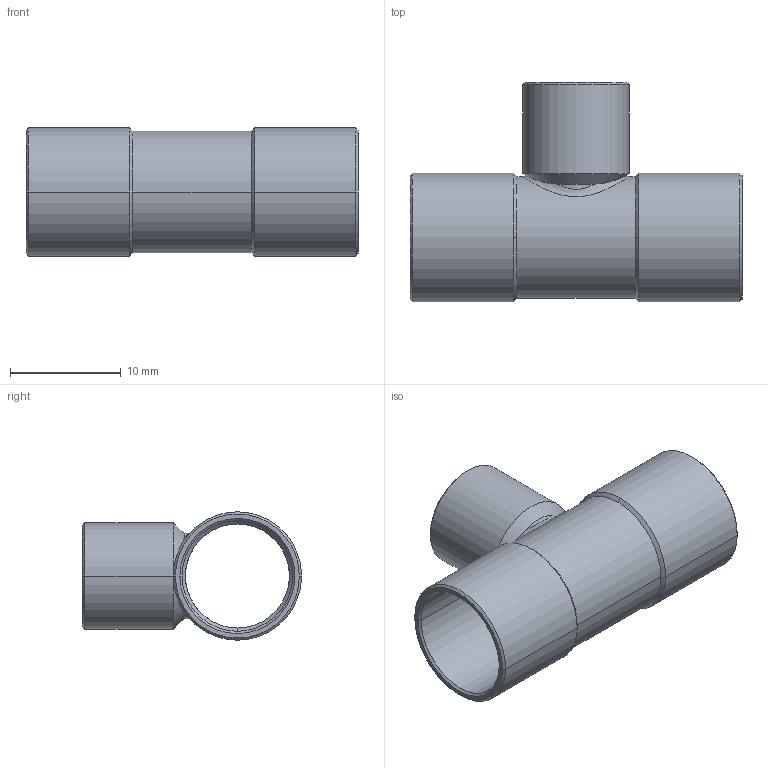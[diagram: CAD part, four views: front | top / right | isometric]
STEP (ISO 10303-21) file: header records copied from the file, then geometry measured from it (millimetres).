
FILE_DESCRIPTION((''),'2;1');
FILE_NAME('P:\Bouwmaten\z-maattekeningen 3D\5000\5130\513010810.stp','2005-10-26T11:52:20',('Kris'),(''),'Autodesk Inventor 8','Autodesk Inventor 8','');
FILE_SCHEMA(('AUTOMOTIVE_DESIGN { 1 0 10303 214 1 1 1 1 }'));
Length unit declared in the file: millimetre
Products named in the file (1): 513010810
Bounding box: 30 x 19.8 x 11.6 mm (x, y, z)
Volume: 975.2 mm3; surface area: 2498.5 mm2
Topology: 1 solids, 1 shells, 49 faces, 128 edges, 80 vertices
Faces by surface type: cone 20, cylinder 16, bspline 10, plane 3
Entity records: 2055 total; most frequent: CARTESIAN_POINT 841, ORIENTED_EDGE 256, DIRECTION 252, EDGE_CURVE 128, AXIS2_PLACEMENT_3D 105, VERTEX_POINT 80, CIRCLE 65, EDGE_LOOP 52
